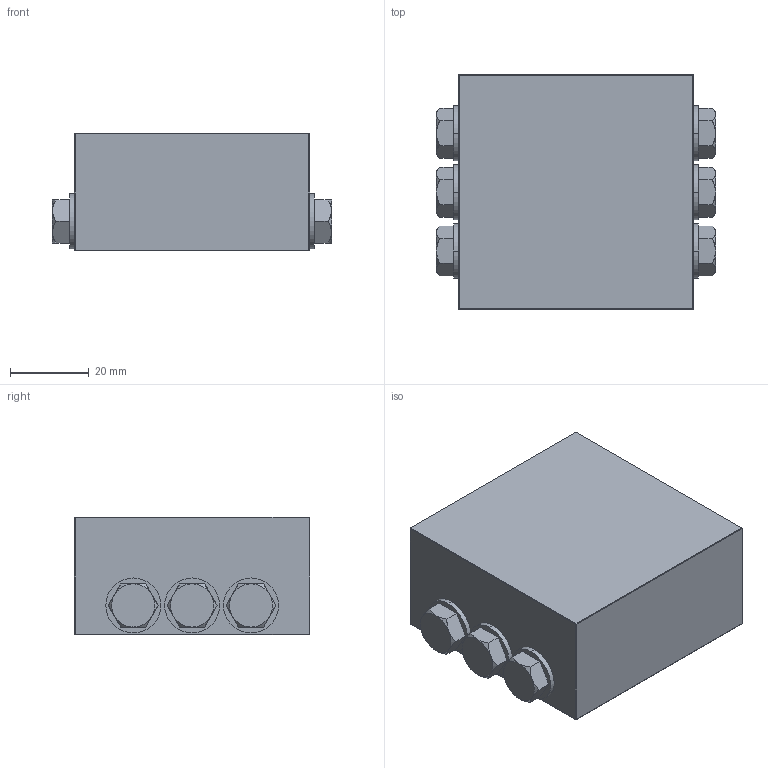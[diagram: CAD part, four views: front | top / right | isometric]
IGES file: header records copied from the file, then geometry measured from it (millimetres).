
Start section:  PTC IGES file: 24z477-en-g.igs
Global section: file name: 24z477-en-g.igs; native system: Creo Parametric by PTC Inc.; preprocessor: 2019030; author: qusrh3; organization: Unknown; date: 20191231.183515; units: inch
Bounding box: 71.1 x 60.08 x 30 mm (x, y, z)
Surface area: 17251.9 mm2 (no closed solid volume)
Topology: 0 solids, 0 shells, 118 faces, 508 edges, 500 vertices
Faces by surface type: bspline 66, revolution 52
